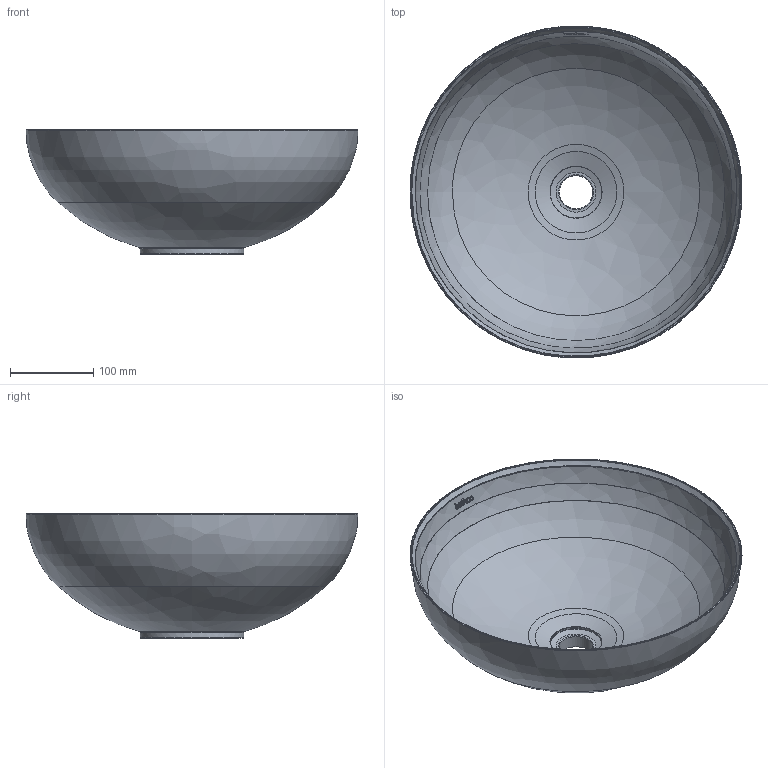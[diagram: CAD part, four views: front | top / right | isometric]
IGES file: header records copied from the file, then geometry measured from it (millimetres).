
Global section: file name: C:\Users\User\Desktop\Lavabos 3D\4084N New Lys\4084N New Lys.igs; native system: Rhinoceros ( Feb 26 2015 ); preprocessor: Trout Lake IGES 012 Feb 26 2015; date: 191022.051229; units: millimetre
Bounding box: 399.88 x 399.77 x 150 mm (x, y, z)
Surface area: 400365 mm2 (no closed solid volume)
Topology: 0 solids, 0 shells, 89 faces, 537 edges, 502 vertices
Faces by surface type: bspline 89
